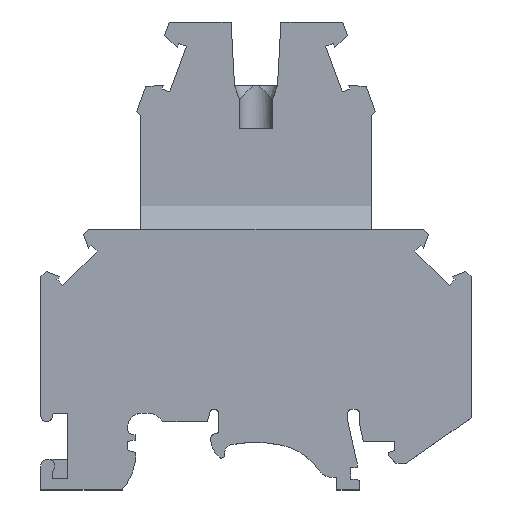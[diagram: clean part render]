
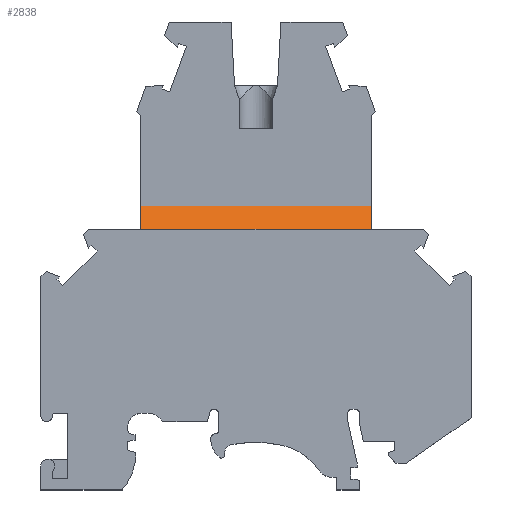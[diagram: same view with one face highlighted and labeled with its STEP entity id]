
A CAD part, top view. The second image highlights one B-rep face of the part: STEP entity #2838.
In plain terms, the highlighted planar face has unit normal (0, 0.655, 0.756).
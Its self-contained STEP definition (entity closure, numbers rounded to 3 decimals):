
#1439=CARTESIAN_POINT('',(-235.849,168.951,-2.6));
#1440=VERTEX_POINT('',#1439);
#1447=CARTESIAN_POINT('',(-205.849,168.951,-2.6));
#1448=VERTEX_POINT('',#1447);
#1449=CARTESIAN_POINT('',(-235.849,168.951,-2.6));
#1450=DIRECTION('',(1.,0.,0.));
#1451=VECTOR('',#1450,30.);
#1452=LINE('',#1449,#1451);
#1453=EDGE_CURVE('',#1440,#1448,#1452,.T.);
#2155=CARTESIAN_POINT('',(-205.849,165.951,0.));
#2156=VERTEX_POINT('',#2155);
#2157=CARTESIAN_POINT('',(-205.849,168.951,-2.6));
#2158=DIRECTION('',(0.,-0.756,0.655));
#2159=VECTOR('',#2158,3.97);
#2160=LINE('',#2157,#2159);
#2161=EDGE_CURVE('',#1448,#2156,#2160,.T.);
#2498=CARTESIAN_POINT('',(-235.849,165.951,0.));
#2499=VERTEX_POINT('',#2498);
#2817=CARTESIAN_POINT('',(-187.201,168.336,-2.066));
#2818=DIRECTION('',(0.,0.756,-0.655));
#2819=DIRECTION('',(0.,0.655,0.756));
#2820=AXIS2_PLACEMENT_3D('',#2817,#2819,#2818);
#2821=PLANE('',#2820);
#2822=CARTESIAN_POINT('',(-235.849,165.951,0.));
#2823=DIRECTION('',(1.,0.,0.));
#2824=VECTOR('',#2823,30.);
#2825=LINE('',#2822,#2824);
#2826=EDGE_CURVE('',#2499,#2156,#2825,.T.);
#2827=ORIENTED_EDGE('E278',*,*,#2826,.T.);
#2828=ORIENTED_EDGE('E278',*,*,#2161,.F.);
#2829=ORIENTED_EDGE('E278',*,*,#1453,.F.);
#2830=CARTESIAN_POINT('',(-235.849,168.951,-2.6));
#2831=DIRECTION('',(0.,-0.756,0.655));
#2832=VECTOR('',#2831,3.97);
#2833=LINE('',#2830,#2832);
#2834=EDGE_CURVE('',#1440,#2499,#2833,.T.);
#2835=ORIENTED_EDGE('E279',*,*,#2834,.T.);
#2836=EDGE_LOOP('',(#2827,#2828,#2829,#2835));
#2837=FACE_OUTER_BOUND('',#2836,.T.);
#2838=ADVANCED_FACE('F55',(#2837),#2821,.T.);
